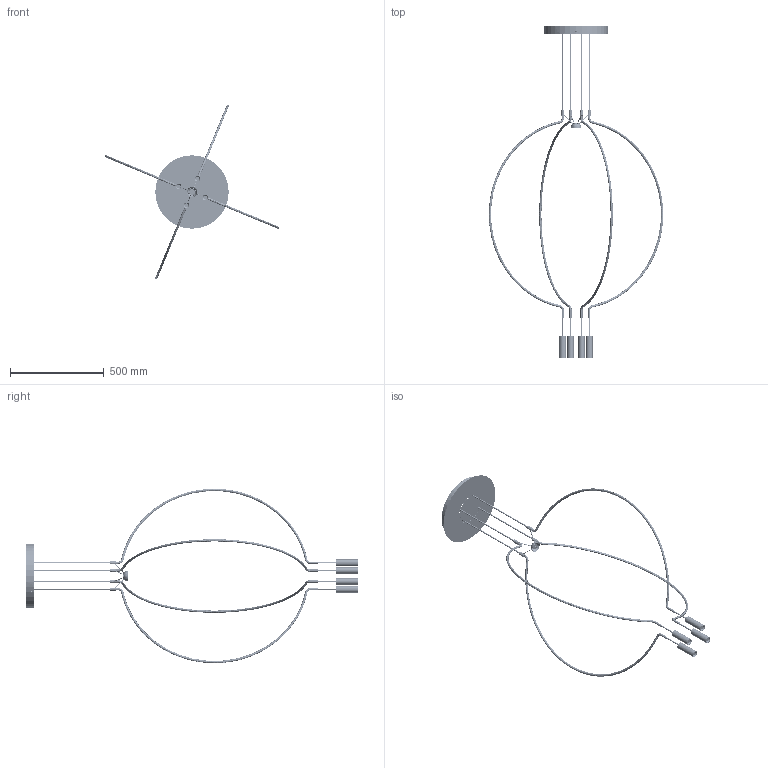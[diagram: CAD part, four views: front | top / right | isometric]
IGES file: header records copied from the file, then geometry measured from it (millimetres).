
Start section: SolidWorks IGES file using analytic representation for surfaces
Global section: file name: \\STORAGE\Tecnico Condiviso\10 NUOVI PROGETTI IN SVILUPPO\NUOVI PROGETTI AXO\AXO058 LIAISON\DRAW\3D\wetransfer-f940a2\1.0A.AXO01.LS06.A1\SPLIAIG4XXXXLED-PER 3D.IGS; native system: SolidWorks 2018; preprocessor: SolidWorks 2018; author: tecnico3; date: 180924.092725; units: millimetre
Bounding box: 929.41 x 1769.03 x 929.41 mm (x, y, z)
Surface area: 1250195.9 mm2 (no closed solid volume)
Topology: 0 solids, 0 shells, 1144 faces, 25432 edges, 25420 vertices
Faces by surface type: revolution 690, bspline 454
